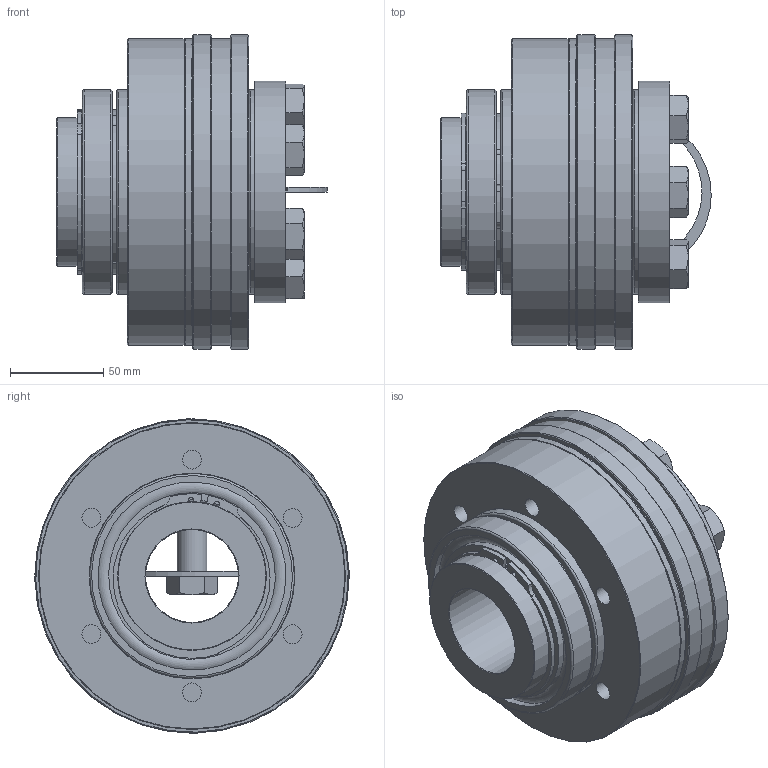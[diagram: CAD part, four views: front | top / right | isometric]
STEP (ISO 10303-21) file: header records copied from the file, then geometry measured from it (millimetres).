
FILE_DESCRIPTION( ( 'Unknown' ), '1' );
FILE_NAME( 'C:/Dokumente und Einstellungen/Sven/Desktop/hp kbk/KBK LL-I-1400.stp', 'Unknown', ( 'Unknown' ), ( 'Unknown' ), 'XStep 1.0', 'Unknown', ' ' );
FILE_SCHEMA( ( 'automotive_design' ) );
Length unit declared in the file: millimetre
Products named in the file (12): Assem1; Assem2; ball_bearing_-_61916_0_01; ball_bearing_-_61916_0_02; ball_bearing_-_61916_0_03; Konusbuchse 800; Stellring 800; Druckring 800; a_80; din_en_24017_m16x45; KBK LL-I-1400 Grundkörper; Flansch 800
Bounding box: 145.4 x 169 x 169 mm (x, y, z)
Volume: 2794787.8 mm3; surface area: 672995.4 mm2
Topology: 32 solids, 32 shells, 542 faces, 1142 edges, 727 vertices
Faces by surface type: plane 211, cylinder 172, cone 120, torus 39
Full cylindrical faces by diameter (mm): 3 x6, 4.917 x6, 6.2 x6, 8.1 x6, 10.106 x12, 13.835 x18, 16 x7, 17.5 x12, 22.49 x7, 50 x4, 69.997 x2, 76.5 x4, 80 x10, 89.6 x8, 100 x2, 101 x8, 110 x6, 119 x2, 120 x4, 135 x2, 148 x2, 149 x2, 165 x4, 169 x2
Entity records: 5271 total; most frequent: CARTESIAN_POINT 1204, DIRECTION 870, ORIENTED_EDGE 562, AXIS2_PLACEMENT_3D 405, EDGE_LOOP 356, EDGE_CURVE 281, FACE_OUTER_BOUND 258, VERTEX_POINT 233
